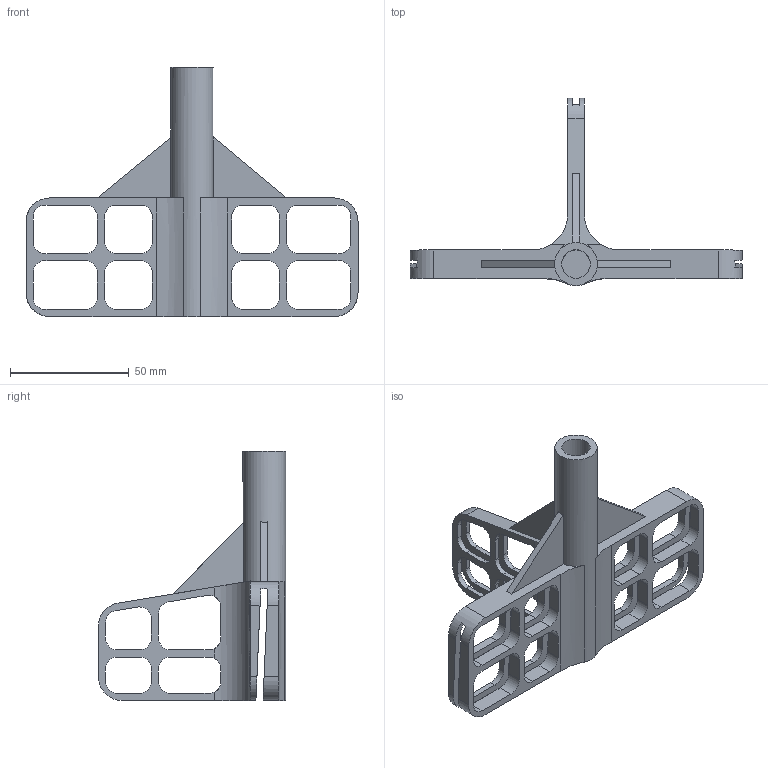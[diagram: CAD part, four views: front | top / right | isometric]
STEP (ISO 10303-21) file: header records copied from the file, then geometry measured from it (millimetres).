
FILE_DESCRIPTION(/* description */ (''),/* implementation_level */ '2;1');
FILE_NAME(/* name */ 'Tail connector v15.step',/* time_stamp */ '2023-09-02T19:05:27+03:00',/* author */ (''),/* organization */ (''),/* preprocessor_version */ 'ST-DEVELOPER v20',/* originating_system */ 'Autodesk Translation Framework v12.9.0.99',/* authorisation */ '');
FILE_SCHEMA (('AUTOMOTIVE_DESIGN { 1 0 10303 214 3 1 1 }'));
Length unit declared in the file: millimetre
Products named in the file (1): Tail connector
Bounding box: 140 x 79 x 105 mm (x, y, z)
Volume: 53450.8 mm3; surface area: 35844.8 mm2
Topology: 1 solids, 1 shells, 248 faces, 763 edges, 506 vertices
Faces by surface type: plane 135, cylinder 109, bspline 4
Full cylindrical faces by diameter (mm): 12 x1, 18 x1
Entity records: 8924 total; most frequent: CARTESIAN_POINT 1826, ORIENTED_EDGE 1526, DIRECTION 1461, EDGE_CURVE 763, VERTEX_POINT 506, LINE 491, VECTOR 491, AXIS2_PLACEMENT_3D 485
